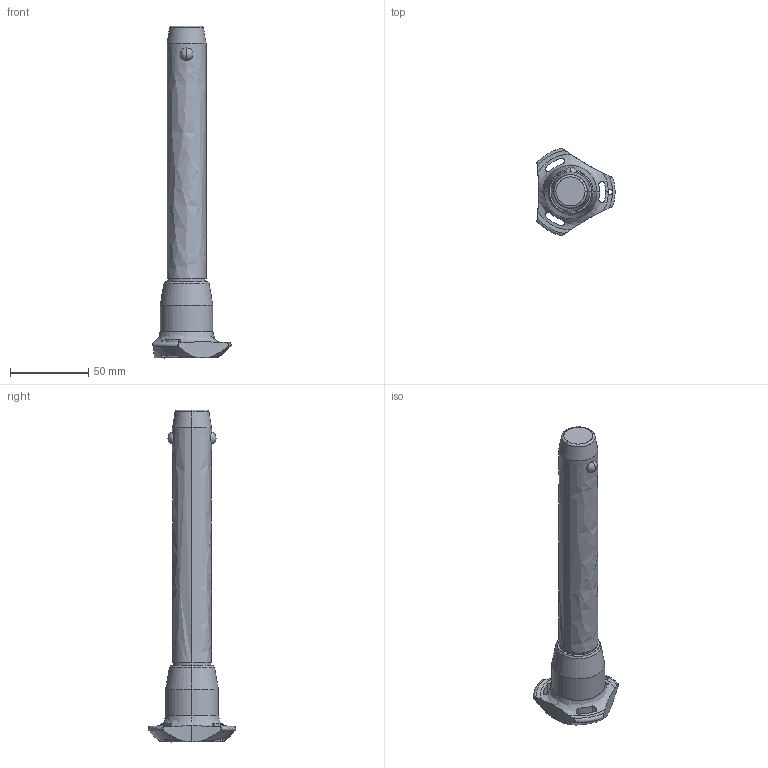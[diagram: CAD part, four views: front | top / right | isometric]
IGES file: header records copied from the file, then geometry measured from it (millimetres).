
Start section: SolidWorks IGES file using analytic representation for surfaces
Global section: file name: C:\Users\ianosborn\Desktop\QR1704_v2\QR1704_v2_20251111_IGES\QR1704.M25-140-S.igs; native system: SolidWorks 2019; preprocessor: SolidWorks 2019; author: IanOsborn; date: 251112.094139; units: millimetre
Bounding box: 50.03 x 56.02 x 212.7 mm (x, y, z)
Surface area: 22444.8 mm2 (no closed solid volume)
Topology: 0 solids, 0 shells, 65 faces, 1310 edges, 1306 vertices
Faces by surface type: revolution 50, bspline 15
